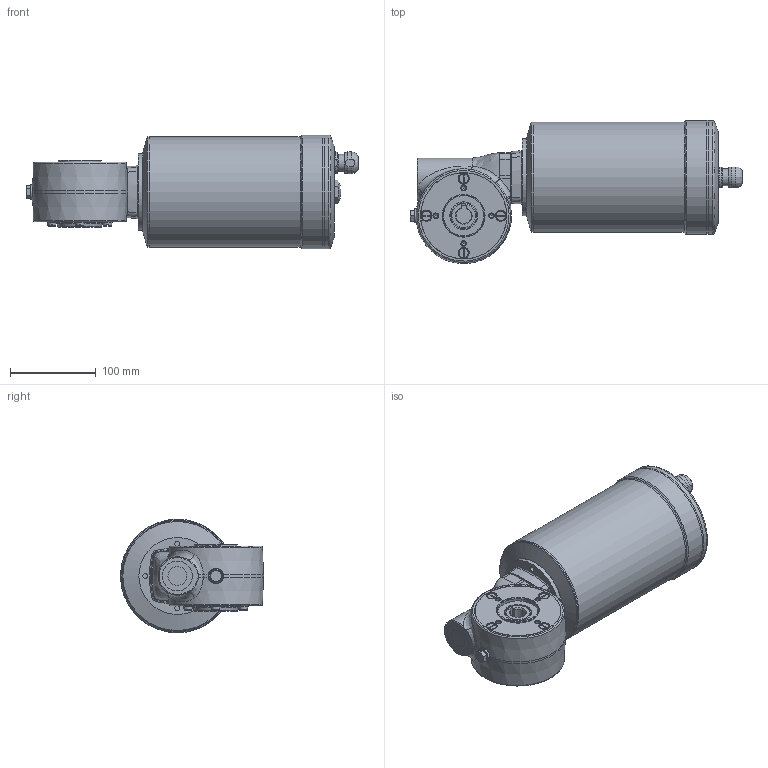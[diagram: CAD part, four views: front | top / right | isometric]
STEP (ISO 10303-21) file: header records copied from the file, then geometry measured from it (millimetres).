
FILE_DESCRIPTION( ( 'Unknown' ), '1' );
FILE_NAME( 'E:/services/configuratordownloads/customers/CLEANGEARTECH/VFN/download/89469133835D5F85A75F2E5FB862CD/STEP/89469133835D5F85A75F2E5FB862CD.3d.stp', 'Unknown', ( 'Unknown' ), ( 'Unknown' ), 'PSStep 10.1', 'Unknown', ' ' );
FILE_SCHEMA( ( 'AUTOMOTIVE_DESIGN { 1 0 10303 214 1 1 1 1 }' ) );
Length unit declared in the file: millimetre
Products named in the file (1): N458800
Bounding box: 388.3 x 167.28 x 133 mm (x, y, z)
Volume: 3755177.9 mm3; surface area: 196703.8 mm2
Topology: 1 solids, 15 shells, 497 faces, 1188 edges, 757 vertices
Faces by surface type: plane 188, cylinder 116, cone 98, bspline 52, torus 42, sphere 1
Full cylindrical faces by diameter (mm): 3.242 x2, 4.134 x8, 4.917 x12, 6 x8, 6.5 x8, 7 x1, 10 x4, 10.5 x4, 11 x1, 13.4 x1, 16.662 x1, 17 x1, 18 x1, 20 x1, 22 x1, 25 x1, 32.5 x2, 35 x1, 40 x1, 47 x2, 50 x2, 52 x1, 60 x1, 76 x1, 90 x1, 101 x1, 128.98 x1, 129 x2, 132.98 x2, 133 x3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
Entity records: 22936 total; most frequent: CARTESIAN_POINT 9226, DIRECTION 1981, ORIENTED_EDGE 1790, EDGE_CURVE 895, AXIS2_PLACEMENT_3D 875, EDGE_LOOP 718, VERTEX_POINT 654, FACE_OUTER_BOUND 593
